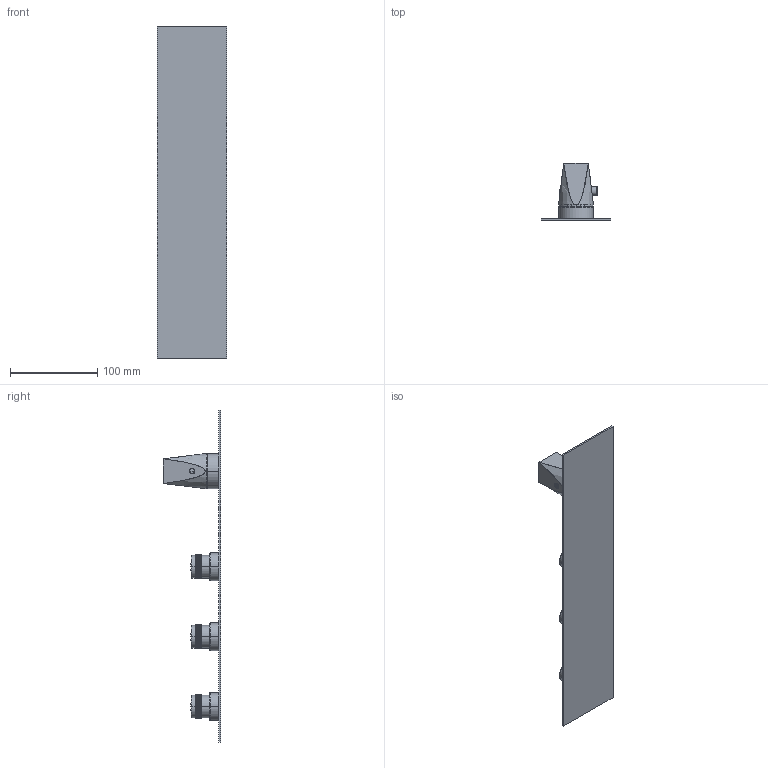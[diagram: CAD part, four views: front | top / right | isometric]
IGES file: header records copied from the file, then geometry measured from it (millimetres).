
Start section:  PTC IGES file: 49600V3.igs
Global section: file name: 49600V3.igs; native system: Creo Parametric by PTC Inc.; preprocessor: 2022014; author: carloff; organization: Unknown; date: 20230921.093840; units: millimetre
Bounding box: 80 x 65.8 x 380 mm (x, y, z)
Surface area: 86594 mm2 (no closed solid volume)
Topology: 0 solids, 0 shells, 5008 faces, 24934 edges, 24924 vertices
Faces by surface type: bspline 3885, revolution 1123
